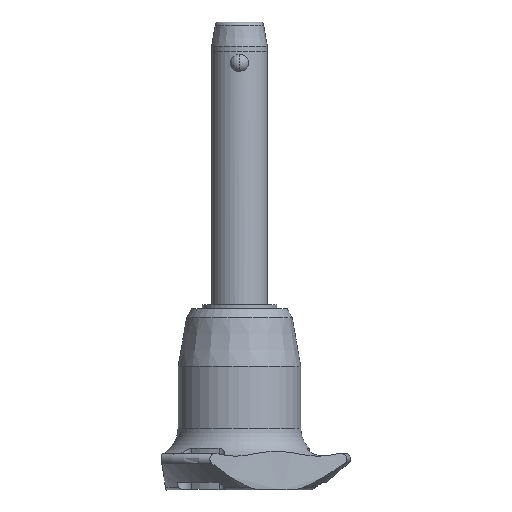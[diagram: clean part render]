
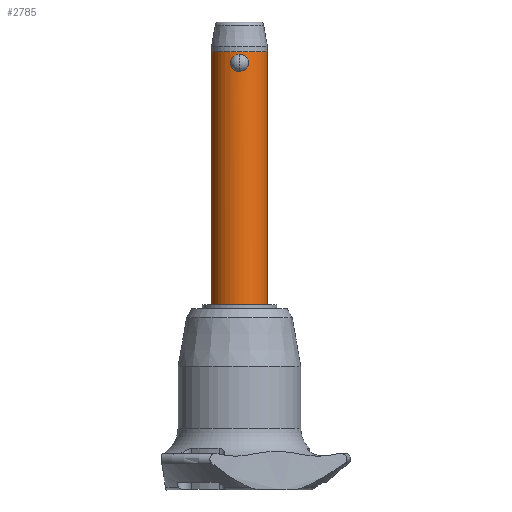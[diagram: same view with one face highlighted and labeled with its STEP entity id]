
A CAD part, front view. The second image highlights one B-rep face of the part: STEP entity #2785.
In plain terms, the highlighted cylindrical face has radius 6 mm (diameter 12 mm), a partial arc.
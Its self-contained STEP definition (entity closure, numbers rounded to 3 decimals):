
#41 = CARTESIAN_POINT ( 'NONE',  ( 0.966, -5.923, 0.232 ) ) ;
#65 = CARTESIAN_POINT ( 'NONE',  ( -0.854, -5.94, 3.53 ) ) ;
#101 = CARTESIAN_POINT ( 'NONE',  ( -1.955, -5.673, 2.107 ) ) ;
#115 = CARTESIAN_POINT ( 'NONE',  ( -0.252, -5.996, 3.697 ) ) ;
#190 = CARTESIAN_POINT ( 'NONE',  ( 0.62, -5.969, 3.619 ) ) ;
#203 = CARTESIAN_POINT ( 'NONE',  ( 1.955, -5.673, 1.979 ) ) ;
#268 = CARTESIAN_POINT ( 'NONE',  ( 0.853, -5.94, 0.177 ) ) ;
#279 = EDGE_CURVE ( 'NONE', #1110, #1436, #991, .T. ) ;
#286 = CIRCLE ( 'NONE', #2475, 6. ) ;
#296 = CARTESIAN_POINT ( 'NONE',  ( -0.25, -6., 0. ) ) ;
#299 = CARTESIAN_POINT ( 'NONE',  ( -1.177, -5.884, 3.347 ) ) ;
#330 = VERTEX_POINT ( 'NONE', #1061 ) ;
#336 = CIRCLE ( 'NONE', #2087, 6. ) ;
#346 = CARTESIAN_POINT ( 'NONE',  ( -1.179, -5.884, 0.363 ) ) ;
#364 = VERTEX_POINT ( 'NONE', #847 ) ;
#372 = CARTESIAN_POINT ( 'NONE',  ( 0.498, -5.981, 3.652 ) ) ;
#399 = CARTESIAN_POINT ( 'NONE',  ( 1.279, -5.863, 3.27 ) ) ;
#431 = CARTESIAN_POINT ( 'NONE',  ( 1.178, -5.884, 3.346 ) ) ;
#433 = DIRECTION ( 'NONE',  ( 1., 0., 0. ) ) ;
#517 = CARTESIAN_POINT ( 'NONE',  ( 0., -6., 0. ) ) ;
#537 = CARTESIAN_POINT ( 'NONE',  ( -0.62, -5.969, 3.619 ) ) ;
#559 = FACE_BOUND ( 'NONE', #1709, .T. ) ;
#567 = CARTESIAN_POINT ( 'NONE',  ( -1.278, -5.863, 3.271 ) ) ;
#594 = CARTESIAN_POINT ( 'NONE',  ( 1.89, -5.695, 2.349 ) ) ;
#607 = ORIENTED_EDGE ( 'NONE', *, *, #957, .F. ) ;
#636 = CARTESIAN_POINT ( 'NONE',  ( 0., -6., 3.708 ) ) ;
#645 = CARTESIAN_POINT ( 'NONE',  ( 0., -6., 3.708 ) ) ;
#649 = CARTESIAN_POINT ( 'NONE',  ( -6., 0., -50. ) ) ;
#671 = DIRECTION ( 'NONE',  ( 1., 0., 0. ) ) ;
#683 = CARTESIAN_POINT ( 'NONE',  ( 6., 0., 4.24 ) ) ;
#707 = CARTESIAN_POINT ( 'NONE',  ( 0., -6., 0. ) ) ;
#725 = CARTESIAN_POINT ( 'NONE',  ( 0.503, -5.983, 0.045 ) ) ;
#755 = CARTESIAN_POINT ( 'NONE',  ( 6., 0., -50. ) ) ;
#771 = VECTOR ( 'NONE', #2225, 1000. ) ;
#779 = CARTESIAN_POINT ( 'NONE',  ( 0., -6., 0. ) ) ;
#796 = CARTESIAN_POINT ( 'NONE',  ( -1.7, -5.755, 0.895 ) ) ;
#802 = DIRECTION ( 'NONE',  ( 0., 0., 1. ) ) ;
#808 = LINE ( 'NONE', #2818, #1759 ) ;
#824 = CARTESIAN_POINT ( 'NONE',  ( -1.89, -5.695, 1.358 ) ) ;
#835 = CARTESIAN_POINT ( 'NONE',  ( 1.749, -5.74, 1.007 ) ) ;
#847 = CARTESIAN_POINT ( 'NONE',  ( -6., 0., -50. ) ) ;
#867 = DIRECTION ( 'NONE',  ( 0., 0., -1. ) ) ;
#878 = CARTESIAN_POINT ( 'NONE',  ( 1.955, -5.673, 1.6 ) ) ;
#896 = CARTESIAN_POINT ( 'NONE',  ( 0., 0., 4.24 ) ) ;
#920 = ORIENTED_EDGE ( 'NONE', *, *, #1069, .T. ) ;
#957 = EDGE_CURVE ( 'NONE', #1436, #1110, #999, .T. ) ;
#984 = CARTESIAN_POINT ( 'NONE',  ( -0.498, -5.981, 3.652 ) ) ;
#991 = B_SPLINE_CURVE_WITH_KNOTS ( 'NONE', 3,
 ( #707, #2752, #725, #268, #41, #1871, #1522, #1964, #2861, #1757, #835, #1993, #878, #203, #2918, #594, #2427, #1509, #1785, #399, #431, #2685, #1344, #190, #372, #2200, #1743, #636 ),
 .UNSPECIFIED., .F., .F.,
 ( 4, 2, 2, 2, 2, 2, 2, 2, 2, 2, 2, 2, 2, 4 ),
 ( 0.006, 0.007, 0.007, 0.008, 0.008, 0.008, 0.009, 0.009, 0.01, 0.011, 0.011, 0.011, 0.012, 0.012 ),
 .UNSPECIFIED. ) ;
#999 = B_SPLINE_CURVE_WITH_KNOTS ( 'NONE', 3,
 ( #2142, #1046, #115, #984, #537, #65, #1262, #299, #567, #1716, #2850, #2351, #2809, #1465, #101, #1018, #2822, #824, #1926, #796, #2600, #2390, #346, #2157, #1788, #2538, #296, #517 ),
 .UNSPECIFIED., .F., .F.,
 ( 4, 2, 2, 2, 2, 2, 2, 2, 2, 2, 2, 2, 2, 4 ),
 ( 0., 0., 0.001, 0.001, 0.002, 0.002, 0.002, 0.003, 0.003, 0.004, 0.005, 0.005, 0.005, 0.006 ),
 .UNSPECIFIED. ) ;
#1015 = DIRECTION ( 'NONE',  ( 0., 0., 1. ) ) ;
#1018 = CARTESIAN_POINT ( 'NONE',  ( -1.955, -5.673, 1.731 ) ) ;
#1023 = CYLINDRICAL_SURFACE ( 'NONE', #1186, 6. ) ;
#1046 = CARTESIAN_POINT ( 'NONE',  ( -0.127, -6., 3.708 ) ) ;
#1061 = CARTESIAN_POINT ( 'NONE',  ( -6., 0., 4.24 ) ) ;
#1069 = EDGE_CURVE ( 'NONE', #1708, #2432, #808, .T. ) ;
#1110 = VERTEX_POINT ( 'NONE', #779 ) ;
#1186 = AXIS2_PLACEMENT_3D ( 'NONE', #1931, #802, #1958 ) ;
#1262 = CARTESIAN_POINT ( 'NONE',  ( -0.966, -5.923, 3.476 ) ) ;
#1344 = CARTESIAN_POINT ( 'NONE',  ( 0.855, -5.94, 3.53 ) ) ;
#1353 = EDGE_LOOP ( 'NONE', ( #2199, #1701, #920, #2576 ) ) ;
#1436 = VERTEX_POINT ( 'NONE', #645 ) ;
#1465 = CARTESIAN_POINT ( 'NONE',  ( -1.9, -5.692, 2.359 ) ) ;
#1507 = LINE ( 'NONE', #649, #771 ) ;
#1509 = CARTESIAN_POINT ( 'NONE',  ( 1.7, -5.755, 2.812 ) ) ;
#1522 = CARTESIAN_POINT ( 'NONE',  ( 1.277, -5.863, 0.437 ) ) ;
#1701 = ORIENTED_EDGE ( 'NONE', *, *, #1923, .F. ) ;
#1708 = VERTEX_POINT ( 'NONE', #755 ) ;
#1709 = EDGE_LOOP ( 'NONE', ( #607, #1836 ) ) ;
#1716 = CARTESIAN_POINT ( 'NONE',  ( -1.46, -5.821, 3.103 ) ) ;
#1743 = CARTESIAN_POINT ( 'NONE',  ( 0.127, -6., 3.708 ) ) ;
#1757 = CARTESIAN_POINT ( 'NONE',  ( 1.687, -5.758, 0.899 ) ) ;
#1759 = VECTOR ( 'NONE', #1015, 1000. ) ;
#1785 = CARTESIAN_POINT ( 'NONE',  ( 1.551, -5.799, 3.018 ) ) ;
#1788 = CARTESIAN_POINT ( 'NONE',  ( -0.853, -5.94, 0.177 ) ) ;
#1836 = ORIENTED_EDGE ( 'NONE', *, *, #279, .F. ) ;
#1871 = CARTESIAN_POINT ( 'NONE',  ( 1.178, -5.884, 0.362 ) ) ;
#1923 = EDGE_CURVE ( 'NONE', #1708, #364, #336, .T. ) ;
#1926 = CARTESIAN_POINT ( 'NONE',  ( -1.852, -5.707, 1.239 ) ) ;
#1931 = CARTESIAN_POINT ( 'NONE',  ( 0., 0., -50. ) ) ;
#1958 = DIRECTION ( 'NONE',  ( 1., 0., 0. ) ) ;
#1964 = CARTESIAN_POINT ( 'NONE',  ( 1.459, -5.821, 0.604 ) ) ;
#1971 = EDGE_CURVE ( 'NONE', #330, #2432, #286, .T. ) ;
#1993 = CARTESIAN_POINT ( 'NONE',  ( 1.901, -5.692, 1.35 ) ) ;
#2087 = AXIS2_PLACEMENT_3D ( 'NONE', #2895, #867, #433 ) ;
#2142 = CARTESIAN_POINT ( 'NONE',  ( 0., -6., 3.708 ) ) ;
#2157 = CARTESIAN_POINT ( 'NONE',  ( -0.967, -5.923, 0.233 ) ) ;
#2199 = ORIENTED_EDGE ( 'NONE', *, *, #2354, .F. ) ;
#2200 = CARTESIAN_POINT ( 'NONE',  ( 0.252, -5.996, 3.697 ) ) ;
#2225 = DIRECTION ( 'NONE',  ( 0., 0., 1. ) ) ;
#2343 = FACE_OUTER_BOUND ( 'NONE', #1353, .T. ) ;
#2351 = CARTESIAN_POINT ( 'NONE',  ( -1.687, -5.759, 2.809 ) ) ;
#2354 = EDGE_CURVE ( 'NONE', #364, #330, #1507, .T. ) ;
#2390 = CARTESIAN_POINT ( 'NONE',  ( -1.278, -5.863, 0.437 ) ) ;
#2427 = CARTESIAN_POINT ( 'NONE',  ( 1.851, -5.708, 2.47 ) ) ;
#2432 = VERTEX_POINT ( 'NONE', #683 ) ;
#2475 = AXIS2_PLACEMENT_3D ( 'NONE', #896, #2704, #671 ) ;
#2538 = CARTESIAN_POINT ( 'NONE',  ( -0.504, -5.983, 0.045 ) ) ;
#2576 = ORIENTED_EDGE ( 'NONE', *, *, #1971, .F. ) ;
#2600 = CARTESIAN_POINT ( 'NONE',  ( -1.551, -5.799, 0.69 ) ) ;
#2685 = CARTESIAN_POINT ( 'NONE',  ( 0.966, -5.923, 3.476 ) ) ;
#2704 = DIRECTION ( 'NONE',  ( 0., 0., 1. ) ) ;
#2752 = CARTESIAN_POINT ( 'NONE',  ( 0.25, -6., 0. ) ) ;
#2785 = ADVANCED_FACE ( 'NONE', ( #2343, #559 ), #1023, .T. ) ;
#2809 = CARTESIAN_POINT ( 'NONE',  ( -1.75, -5.74, 2.7 ) ) ;
#2818 = CARTESIAN_POINT ( 'NONE',  ( 6., 0., -50. ) ) ;
#2822 = CARTESIAN_POINT ( 'NONE',  ( -1.942, -5.677, 1.604 ) ) ;
#2850 = CARTESIAN_POINT ( 'NONE',  ( -1.541, -5.799, 3.011 ) ) ;
#2861 = CARTESIAN_POINT ( 'NONE',  ( 1.543, -5.799, 0.699 ) ) ;
#2895 = CARTESIAN_POINT ( 'NONE',  ( 0., 0., -50. ) ) ;
#2918 = CARTESIAN_POINT ( 'NONE',  ( 1.942, -5.677, 2.103 ) ) ;
